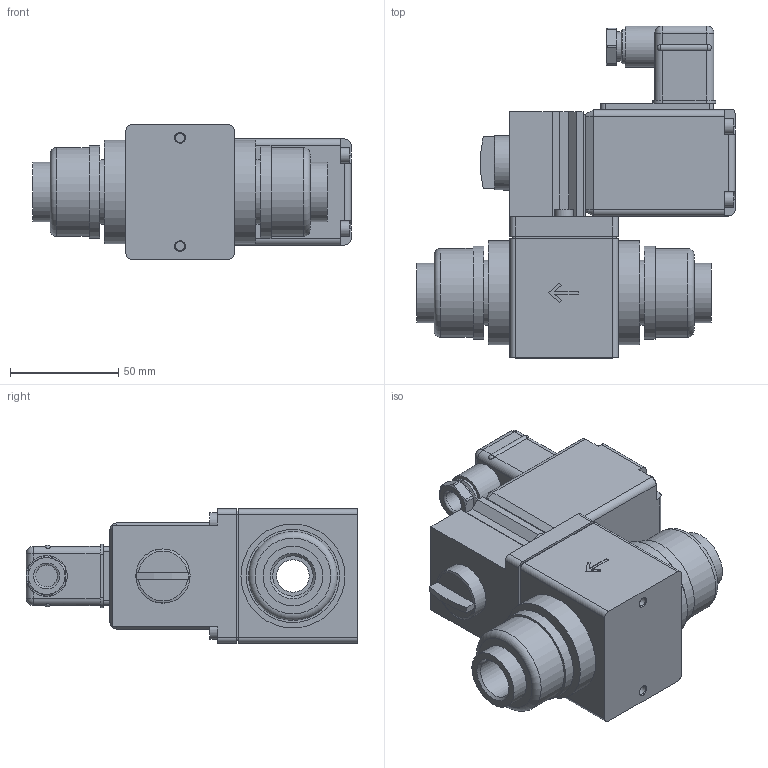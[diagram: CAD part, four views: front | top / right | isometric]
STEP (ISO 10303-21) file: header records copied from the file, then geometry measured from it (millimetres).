
FILE_DESCRIPTION(/* description */ ('STEP AP203'),/* implementation_level */ '2;1');
FILE_NAME(/* name */ '0131-045716-Direct-acting_2_2_or_3_2_way_toggle_valves',/* time_stamp */ '2023-12-31T09:05:48+01:00',/* author */ ('License CC BY-ND 4.0'),/* organization */ ('CADENAS'),/* preprocessor_version */ 'ST-DEVELOPER v19.3',/* originating_system */ 'PARTsolutions',/* authorisation */ ' ');
FILE_SCHEMA (('CONFIG_CONTROL_DESIGN'));
Length unit declared in the file: millimetre
Products named in the file (1): 0131-045716-Direct-acting 2/2 or 3/2 way toggle valves
Bounding box: 147 x 153.2 x 62 mm (x, y, z)
Volume: 562611.7 mm3; surface area: 70322.3 mm2
Topology: 1 solids, 2 shells, 238 faces, 572 edges, 367 vertices
Faces by surface type: plane 131, cylinder 78, cone 17, sphere 9, torus 3
Full cylindrical faces by diameter (mm): 2.459 x1, 4.134 x2, 7 x5, 8.5 x2, 10 x1, 13.7 x1, 15 x1, 16 x1, 18.631 x2, 19 x1, 25 x1, 27.5 x2, 30 x2, 41 x2, 43 x2, 48 x2
Entity records: 6701 total; most frequent: CARTESIAN_POINT 1224, DIRECTION 1158, ORIENTED_EDGE 1044, EDGE_CURVE 522, AXIS2_PLACEMENT_3D 423, VERTEX_POINT 360, LINE 312, VECTOR 312
